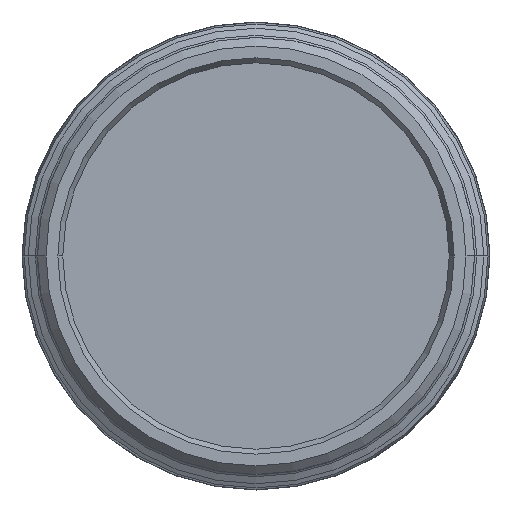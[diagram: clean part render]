
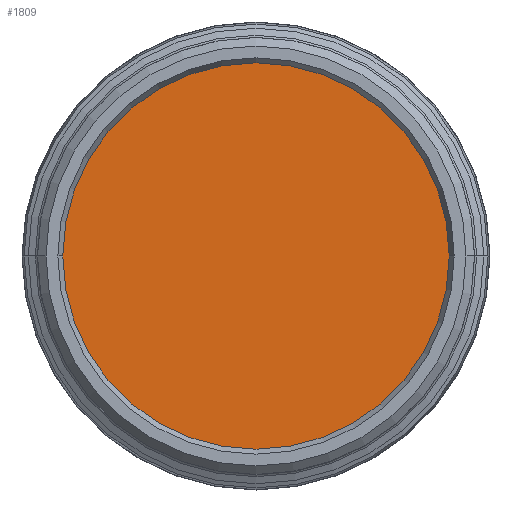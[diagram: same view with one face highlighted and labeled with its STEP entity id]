
A CAD part, front view. The second image highlights one B-rep face of the part: STEP entity #1809.
In plain terms, the highlighted planar face has unit normal (0, -1, 0).
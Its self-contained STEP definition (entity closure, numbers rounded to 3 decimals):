
#48=CARTESIAN_POINT('',(0.,10.,0.));
#49=DIRECTION('',(0.,-1.,0.));
#50=DIRECTION('',(-1.,0.,0.));
#51=AXIS2_PLACEMENT_3D('',#48,#49,#50);
#71=CARTESIAN_POINT('',(0.,10.,0.));
#72=DIRECTION('',(0.,-1.,0.));
#73=DIRECTION('',(1.,0.,0.));
#74=AXIS2_PLACEMENT_3D('',#71,#72,#73);
#1779=CARTESIAN_POINT('',(45.,10.,0.));
#1780=CARTESIAN_POINT('',(-45.,10.,0.));
#1781=VERTEX_POINT('',#1779);
#1782=VERTEX_POINT('',#1780);
#1799=CARTESIAN_POINT('',(0.,10.,0.));
#1800=DIRECTION('',(0.,-1.,0.));
#1801=DIRECTION('',(-1.,0.,0.));
#1802=AXIS2_PLACEMENT_3D('',#1799,#1800,#1801);
#1803=PLANE('',#1802);
#1805=ORIENTED_EDGE('',*,*,#1804,.F.);
#1806=ORIENTED_EDGE('',*,*,#1788,.F.);
#1807=EDGE_LOOP('',(#1805,#1806));
#1808=FACE_OUTER_BOUND('',#1807,.F.);
#52=CIRCLE('',#51,45.);
#75=CIRCLE('',#74,45.);
#1788=EDGE_CURVE('',#1782,#1781,#52,.T.);
#1804=EDGE_CURVE('',#1781,#1782,#75,.T.);
#1809=ADVANCED_FACE('',(#1808),#1803,.T.);
